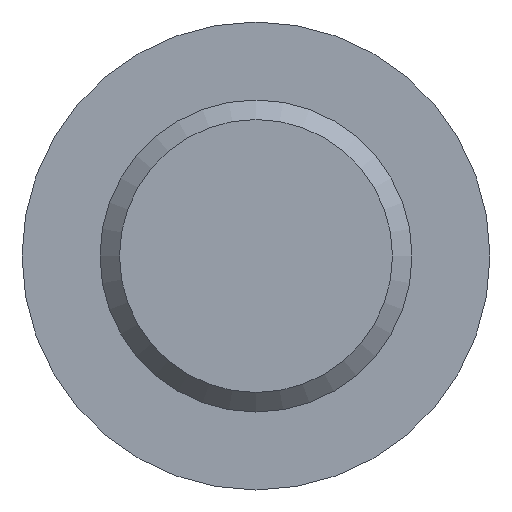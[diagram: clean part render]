
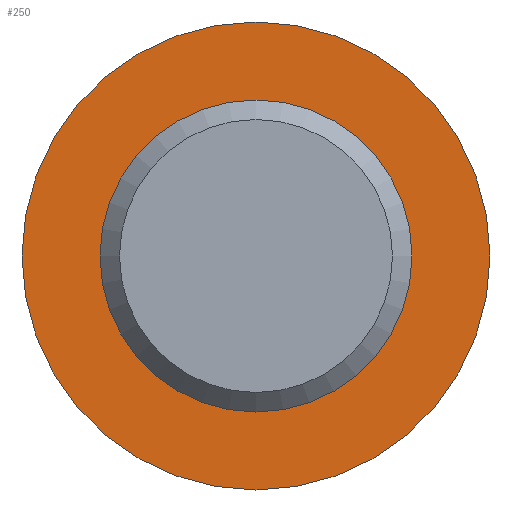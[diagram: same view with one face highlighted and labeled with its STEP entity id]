
A CAD part, front view. The second image highlights one B-rep face of the part: STEP entity #250.
In plain terms, the highlighted planar face has unit normal (0, -1, 0).
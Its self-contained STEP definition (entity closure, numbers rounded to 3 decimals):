
#17=FACE_BOUND('',#61,.T.);
#30=PLANE('',#303);
#43=FACE_OUTER_BOUND('',#60,.T.);
#60=EDGE_LOOP('',(#214,#215));
#61=EDGE_LOOP('',(#216,#217));
#100=CIRCLE('',#301,4.);
#101=CIRCLE('',#302,4.);
#102=CIRCLE('',#304,6.);
#103=CIRCLE('',#305,6.);
#126=VERTEX_POINT('',#456);
#127=VERTEX_POINT('',#457);
#128=VERTEX_POINT('',#462);
#129=VERTEX_POINT('',#463);
#157=EDGE_CURVE('',#126,#127,#100,.T.);
#158=EDGE_CURVE('',#127,#126,#101,.T.);
#160=EDGE_CURVE('',#128,#129,#102,.T.);
#161=EDGE_CURVE('',#129,#128,#103,.T.);
#214=ORIENTED_EDGE('',*,*,#160,.F.);
#215=ORIENTED_EDGE('',*,*,#161,.F.);
#216=ORIENTED_EDGE('',*,*,#157,.T.);
#217=ORIENTED_EDGE('',*,*,#158,.T.);
#250=ADVANCED_FACE('',(#43,#17),#30,.T.);
#301=AXIS2_PLACEMENT_3D('',#458,#375,#376);
#302=AXIS2_PLACEMENT_3D('',#459,#377,#378);
#303=AXIS2_PLACEMENT_3D('',#461,#380,#381);
#304=AXIS2_PLACEMENT_3D('',#464,#382,#383);
#305=AXIS2_PLACEMENT_3D('',#465,#384,#385);
#375=DIRECTION('center_axis',(0.,1.,0.));
#376=DIRECTION('ref_axis',(1.,0.,0.));
#377=DIRECTION('center_axis',(0.,1.,0.));
#378=DIRECTION('ref_axis',(1.,0.,0.));
#380=DIRECTION('center_axis',(0.,-1.,0.));
#381=DIRECTION('ref_axis',(0.,0.,-1.));
#382=DIRECTION('center_axis',(0.,1.,0.));
#383=DIRECTION('ref_axis',(1.,0.,0.));
#384=DIRECTION('center_axis',(0.,1.,0.));
#385=DIRECTION('ref_axis',(1.,0.,0.));
#456=CARTESIAN_POINT('',(0.,-240.,4.));
#457=CARTESIAN_POINT('',(0.,-240.,-4.));
#458=CARTESIAN_POINT('Origin',(0.,-240.,0.));
#459=CARTESIAN_POINT('Origin',(0.,-240.,0.));
#461=CARTESIAN_POINT('Origin',(0.,-240.,6.));
#462=CARTESIAN_POINT('',(0.,-240.,6.));
#463=CARTESIAN_POINT('',(0.,-240.,-6.));
#464=CARTESIAN_POINT('Origin',(0.,-240.,0.));
#465=CARTESIAN_POINT('Origin',(0.,-240.,0.));
